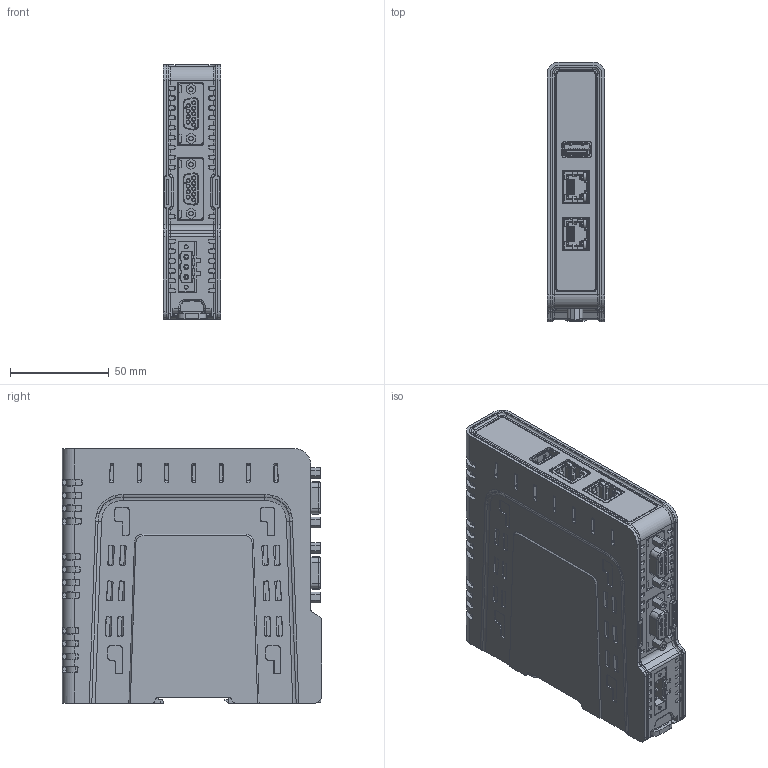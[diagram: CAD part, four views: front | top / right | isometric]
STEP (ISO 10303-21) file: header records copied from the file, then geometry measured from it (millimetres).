
FILE_DESCRIPTION((''),'2;1');
FILE_NAME('3D_TOPRP1000D_','2022-08-03T16:12:35',('BCKIM'),(''),'CREO PARAMETRIC BY PTC INC, 2020454','CREO PARAMETRIC BY PTC INC, 2020454','');
FILE_SCHEMA(('CONFIG_CONTROL_DESIGN'));
Products named in the file (1): 3D_TOPRP1000D_
Bounding box: 29.2 x 131.25 x 128.9 mm (x, y, z)
Volume: 446504.9 mm3; surface area: 72422.9 mm2
Topology: 1 solids, 6 shells, 4820 faces, 14053 edges, 9197 vertices
Faces by surface type: plane 3185, cylinder 1340, bspline 172, cone 73, torus 36, sphere 11, extrusion 3
Entity records: 167837 total; most frequent: CARTESIAN_POINT 42214, ORIENTED_EDGE 28104, DIRECTION 23425, EDGE_CURVE 14052, VECTOR 10467, LINE 10464, VERTEX_POINT 9197, AXIS2_PLACEMENT_3D 6479
